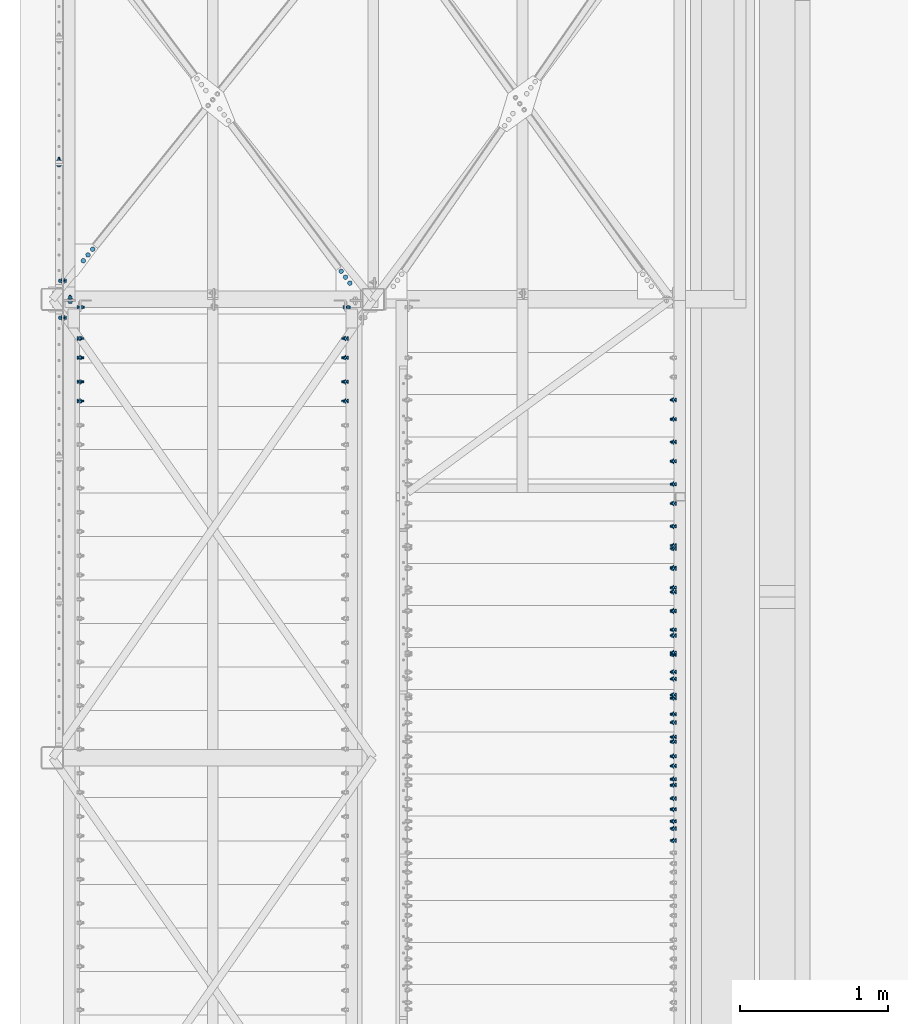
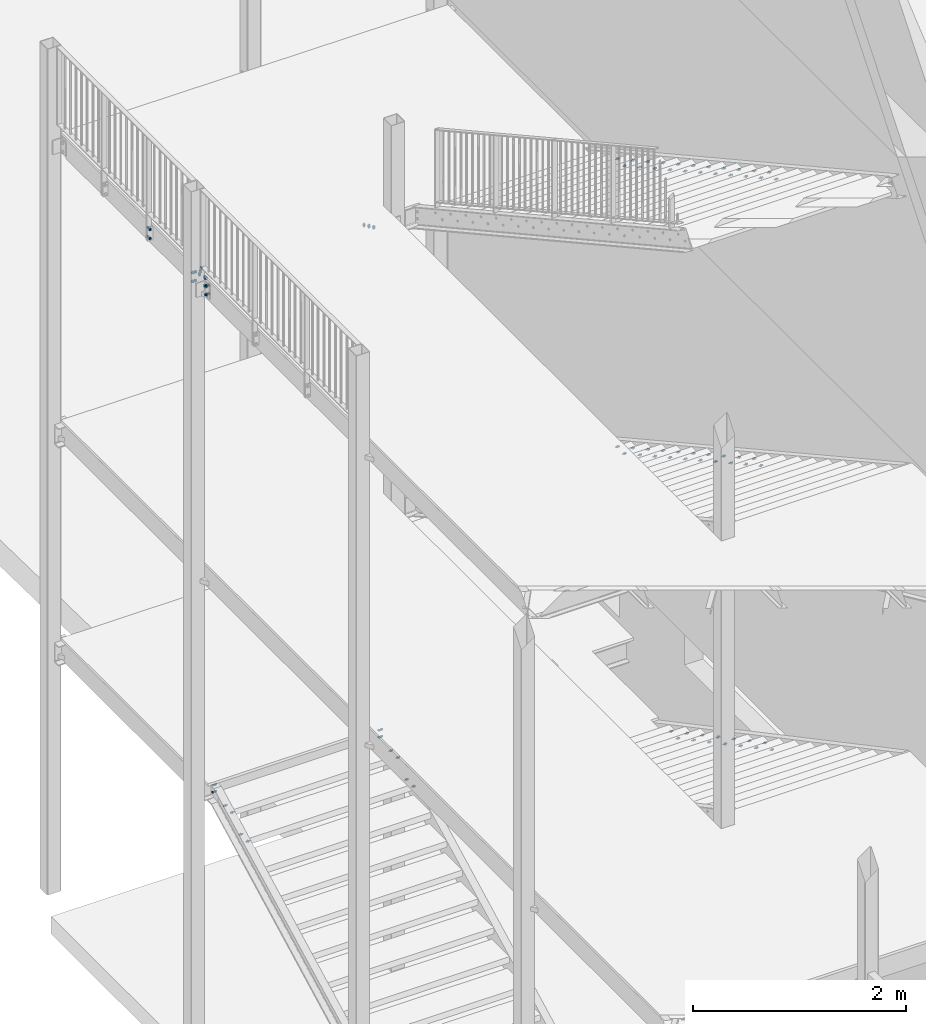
# One storey, part 71 of 78: 40 mechanical fasteners, 11 elements without a shape of their own.
"""IFC2X3 building model written with IfcOpenShell, lengths in millimetres."""

from ifc_helpers import new_model, si_unit, frame, origin_with_axes, origin_2d_with_axis, place, context, subcontext, project, spatial, polyline, circle, outline, extrude, source, transform, mapped, material, type_object, element, aggregate, save


model = new_model("IFC2X3")

# Units and contexts
model_context = context("Model", 3, precision=1e-05, world=origin_with_axes())
body_context = subcontext(model_context, "Body", "Model", "MODEL_VIEW")
ifc_project = project(units=[si_unit("LENGTHUNIT", "METRE", prefix="MILLI"), si_unit("AREAUNIT", "SQUARE_METRE"), si_unit("VOLUMEUNIT", "CUBIC_METRE"), si_unit("MASSUNIT", "GRAM", prefix="KILO"), si_unit("TIMEUNIT", "SECOND"), si_unit("PLANEANGLEUNIT", "RADIAN"), si_unit("SOLIDANGLEUNIT", "STERADIAN"), si_unit("THERMODYNAMICTEMPERATUREUNIT", "DEGREE_CELSIUS"), si_unit("LUMINOUSINTENSITYUNIT", "LUMEN")], contexts=[model_context])

# Site, building, storey
site_placement = place(None, origin_with_axes())
site = spatial("IfcSite", under=ifc_project, at=site_placement, Name="Site", CompositionType="ELEMENT")
building_placement = place(site_placement, origin_with_axes())
building = spatial("IfcBuilding", under=site, at=building_placement, Name="Undefined", CompositionType="ELEMENT")
storey_placement = place(building_placement, origin_with_axes())
storey = spatial("IfcBuildingStorey", under=building, at=storey_placement, Name="Undefined", CompositionType="ELEMENT", Elevation=0.0)

# Assembly, mechanical fastener
assembly_1_placement = place(storey_placement, origin_with_axes())
assembly_1 = element("IfcElementAssembly", 1, at=assembly_1_placement, inside=storey, AssemblyPlace="NOTDEFINED", PredefinedType="RIGID_FRAME")
ifc_material_1 = material(Name="8.8")
mechanical_fastener_type = type_object("IfcMechanicalFastenerType", Name="Bolt assembly")
shared_shape_1 = source(origin_with_axes(), body_context, "Body", "SweptSolid", [
    extrude(circle(Radius=9.0, at=origin_2d_with_axis()), frame((0.0, -7.89999999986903, 0.0), z_axis=(0.0, 1.0, 0.0), x_axis=(1.0, 0.0, 0.0)), (0.0, 0.0, 1.0), 8.0),
    extrude(circle(Radius=9.0, at=origin_2d_with_axis()), frame((0.0, -0.0999999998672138, 0.0), z_axis=(0.0, 1.0, 0.0), x_axis=(1.0, 0.0, 0.0)), (0.0, 0.0, 1.0), 9.1),
    extrude(outline(polyline([(13.85640646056, 0.0), (6.92820323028, 12.0000000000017), (-6.92820323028, 12.0000000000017), (-13.85640646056, 0.0), (-6.92820323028, -12.0000000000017), (6.92820323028, -12.0000000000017), (13.85640646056, 0.0)])), frame((0.0, -17.999999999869, 0.0), z_axis=(0.0, 1.0, 0.0), x_axis=(1.0, 0.0, 0.0)), (0.0, 0.0, 1.0), 10.0),
    extrude(circle(Radius=8.0, at=origin_2d_with_axis()), frame((0.0, -7.99999999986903, 0.0), z_axis=(0.0, 1.0, 0.0), x_axis=(1.0, 0.0, 0.0)), (0.0, 0.0, 1.0), 40.0),
    extrude(outline(polyline([(13.85640646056, 0.0), (6.92820323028, 12.0000000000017), (-6.92820323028, 12.0000000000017), (-13.85640646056, 0.0), (-6.92820323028, -12.0000000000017), (6.92820323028, -12.0000000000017), (13.85640646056, 0.0)])), frame((0.0, 9.0, 0.0), z_axis=(0.0, 1.0, 0.0), x_axis=(1.0, 0.0, 0.0)), (0.0, 0.0, 1.0), 14.8),
])
mechanical_fastener_1_placement = place(assembly_1_placement, frame((-33401.429999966, 10105.0499999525, 150800.039999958), z_axis=(0.0, -1.0, 0.0), x_axis=(0.0, 0.0, -1.0)))
mechanical_fastener_1 = element("IfcMechanicalFastener", 2, at=mechanical_fastener_1_placement, type_object=mechanical_fastener_type, material=ifc_material_1, Name="Bolt assembly", NominalDiameter=16.0, NominalLength=40.0, context=body_context, shape_type="MappedRepresentation", body=[
    mapped(shared_shape_1, transform((0.0, 0.0, 50.0))),
    mapped(shared_shape_1, transform((80.0, 0.0, 50.0))),
])

assembly_2_placement = place(storey_placement, origin_with_axes())
assembly_2 = element("IfcElementAssembly", 3, at=assembly_2_placement, inside=storey, Name="STAB", AssemblyPlace="NOTDEFINED", PredefinedType="RIGID_FRAME")
shared_shape_2 = source(origin_with_axes(), body_context, "Body", "SweptSolid", [
    extrude(circle(Radius=7.0, at=origin_2d_with_axis()), frame((0.0, -8.1, 0.0), z_axis=(0.0, 1.0, 0.0), x_axis=(1.0, 0.0, 0.0)), (0.0, 0.0, 1.0), 8.1),
    extrude(circle(Radius=7.0, at=origin_2d_with_axis()), frame((0.0, -12.9, 0.0), z_axis=(0.0, 1.0, 0.0), x_axis=(1.0, 0.0, 0.0)), (0.0, 0.0, 1.0), 5.0),
    extrude(outline(polyline([(10.96965511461, 0.0), (5.484827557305, 9.50000000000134), (-5.484827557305, 9.50000000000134), (-10.96965511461, 0.0), (-5.484827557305, -9.50000000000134), (5.484827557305, -9.50000000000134), (10.96965511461, 0.0)])), frame((0.0, -24.2000000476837, 0.0), z_axis=(0.0, 1.0, 0.0), x_axis=(1.0, 0.0, 0.0)), (0.0, 0.0, 1.0), 8.0),
    extrude(circle(Radius=6.0, at=origin_2d_with_axis()), frame((0.0, -16.2000000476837, 0.0), z_axis=(0.0, 1.0, 0.0), x_axis=(1.0, 0.0, 0.0)), (0.0, 0.0, 1.0), 35.0),
    extrude(circle(Radius=15.5, at=origin_2d_with_axis()), frame((0.0, -16.2000000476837, 0.0), z_axis=(0.0, 1.0, 0.0), x_axis=(1.0, 0.0, 0.0)), (0.0, 0.0, 1.0), 3.2),
    extrude(circle(Radius=15.5, at=origin_2d_with_axis()), frame((0.0, 0.0, 0.0), z_axis=(0.0, 1.0, 0.0), x_axis=(1.0, 0.0, 0.0)), (0.0, 0.0, 1.0), 3.2),
    extrude(outline(polyline([(10.39230484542, 0.0), (5.19615242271, 9.00000000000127), (-5.19615242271, 9.00000000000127), (-10.39230484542, 0.0), (-5.19615242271, -9.00000000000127), (5.19615242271, -9.00000000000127), (10.39230484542, 0.0)])), frame((0.0, 3.20000004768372, 0.0), z_axis=(0.0, 1.0, 0.0), x_axis=(1.0, 0.0, 0.0)), (0.0, 0.0, 1.0), 10.8),
])
mechanical_fastener_2_placement = place(assembly_2_placement, frame((-33373.7218397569, 10217.9940441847, 156450.04), z_axis=(-0.80071118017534, -0.599050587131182, 0.0), x_axis=(-0.599050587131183, 0.800711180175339, 0.0)))
mechanical_fastener_2 = element("IfcMechanicalFastener", 4, at=mechanical_fastener_2_placement, type_object=mechanical_fastener_type, material=ifc_material_1, Name="Bolt assembly", NominalDiameter=12.0, NominalLength=35.0, context=body_context, shape_type="MappedRepresentation", body=[
    mapped(shared_shape_2, transform((0.0, 0.0, 0.0))),
    mapped(shared_shape_2, transform((49.9999999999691, 0.0, 7.27595761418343e-12))),
    mapped(shared_shape_2, transform((100.0, 0.0, 0.0))),
])
aggregate(assembly_2, [mechanical_fastener_2])

assembly_3_placement = place(storey_placement, origin_with_axes())
assembly_3 = element("IfcElementAssembly", 5, at=assembly_3_placement, inside=storey, Name="STAB", AssemblyPlace="NOTDEFINED", PredefinedType="RIGID_FRAME")
mechanical_fastener_3_placement = place(assembly_3_placement, frame((-35176.2821913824, 10369.4742318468, 156450.04), z_axis=(-0.779458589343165, 0.626453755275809, 0.0), x_axis=(0.626453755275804, 0.779458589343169, 0.0)))
mechanical_fastener_3 = element("IfcMechanicalFastener", 6, at=mechanical_fastener_3_placement, type_object=mechanical_fastener_type, material=ifc_material_1, Name="Bolt assembly", NominalDiameter=12.0, NominalLength=35.0, context=body_context, shape_type="MappedRepresentation", body=[
    mapped(shared_shape_2, transform((0.0, 0.0, 0.0))),
    mapped(shared_shape_2, transform((49.9999999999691, 0.0, 7.27595761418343e-12))),
    mapped(shared_shape_2, transform((100.0, 0.0, 0.0))),
])
aggregate(assembly_3, [mechanical_fastener_3])

assembly_4_placement = place(storey_placement, origin_with_axes())
assembly_4 = element("IfcElementAssembly", 7, at=assembly_4_placement, inside=storey, Name="MAIN_COURANTE", AssemblyPlace="NOTDEFINED", PredefinedType="RIGID_FRAME")
ifc_material_2 = material(Name="INOX-A4")
shared_shape_3 = source(origin_with_axes(), body_context, "Body", "SweptSolid", [
    extrude(circle(Radius=7.0, at=origin_2d_with_axis()), frame((0.0, -7.4, 0.0), z_axis=(0.0, 1.0, 0.0), x_axis=(1.0, 0.0, 0.0)), (0.0, 0.0, 1.0), 15.0),
    extrude(circle(Radius=7.0, at=origin_2d_with_axis()), frame((0.0, 7.4, 0.0), z_axis=(0.0, 1.0, 0.0), x_axis=(1.0, 0.0, 0.0)), (0.0, 0.0, 1.0), 20.1),
    extrude(outline(polyline([(10.96965511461, 0.0), (5.484827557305, 9.50000000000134), (-5.484827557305, 9.50000000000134), (-10.96965511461, 0.0), (-5.484827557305, -9.50000000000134), (5.484827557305, -9.50000000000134), (10.96965511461, 0.0)])), frame((0.0, -18.7000000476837, 0.0), z_axis=(0.0, 1.0, 0.0), x_axis=(1.0, 0.0, 0.0)), (0.0, 0.0, 1.0), 8.0),
    extrude(circle(Radius=6.0, at=origin_2d_with_axis()), frame((0.0, -10.7000000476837, 0.0), z_axis=(0.0, 1.0, 0.0), x_axis=(1.0, 0.0, 0.0)), (0.0, 0.0, 1.0), 60.0),
    extrude(circle(Radius=15.5, at=origin_2d_with_axis()), frame((0.0, -10.7000000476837, 0.0), z_axis=(0.0, 1.0, 0.0), x_axis=(1.0, 0.0, 0.0)), (0.0, 0.0, 1.0), 3.2),
    extrude(circle(Radius=15.5, at=origin_2d_with_axis()), frame((0.0, 27.5, 0.0), z_axis=(0.0, 1.0, 0.0), x_axis=(1.0, 0.0, 0.0)), (0.0, 0.0, 1.0), 3.2),
    extrude(outline(polyline([(10.39230484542, 0.0), (5.19615242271, 9.00000000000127), (-5.19615242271, 9.00000000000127), (-10.39230484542, 0.0), (-5.19615242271, -9.00000000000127), (5.19615242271, -9.00000000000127), (10.39230484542, 0.0)])), frame((0.0, 30.7000000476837, 0.0), z_axis=(0.0, 1.0, 0.0), x_axis=(1.0, 0.0, 0.0)), (0.0, 0.0, 1.0), 10.8),
])
mechanical_fastener_4_placement = place(assembly_4_placement, frame((-35341.43, 11020.5, 156585.04), z_axis=(0.0, 0.0, 1.0), x_axis=(1.0, 0.0, 0.0)))
mechanical_fastener_4 = element("IfcMechanicalFastener", 8, at=mechanical_fastener_4_placement, type_object=mechanical_fastener_type, material=ifc_material_2, Name="Bolt assembly", NominalDiameter=12.0, NominalLength=60.0, context=body_context, shape_type="MappedRepresentation", body=[
    mapped(shared_shape_3, transform((0.0, 0.0, -50.0))),
    mapped(shared_shape_3, transform((0.0, 0.0, 50.0))),
])
aggregate(assembly_4, [mechanical_fastener_4])

assembly_5_placement = place(storey_placement, origin_with_axes())
assembly_5 = element("IfcElementAssembly", 9, at=assembly_5_placement, inside=storey, AssemblyPlace="NOTDEFINED", PredefinedType="RIGID_FRAME")
shared_shape_4 = source(origin_with_axes(), body_context, "Body", "SweptSolid", [
    extrude(circle(Radius=9.0, at=origin_2d_with_axis()), frame((0.0, -0.0999999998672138, 0.0), z_axis=(0.0, 1.0, 0.0), x_axis=(1.0, 0.0, 0.0)), (0.0, 0.0, 1.0), 10.1),
    extrude(circle(Radius=9.0, at=origin_2d_with_axis()), frame((0.0, -8.9, 0.0), z_axis=(0.0, 1.0, 0.0), x_axis=(1.0, 0.0, 0.0)), (0.0, 0.0, 1.0), 9.0),
    extrude(outline(polyline([(13.85640646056, 0.0), (6.92820323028, 12.0000000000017), (-6.92820323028, 12.0000000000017), (-13.85640646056, 0.0), (-6.92820323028, -12.0000000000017), (6.92820323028, -12.0000000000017), (13.85640646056, 0.0)])), frame((0.0, -22.4000000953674, 0.0), z_axis=(0.0, 1.0, 0.0), x_axis=(1.0, 0.0, 0.0)), (0.0, 0.0, 1.0), 10.0),
    extrude(circle(Radius=8.0, at=origin_2d_with_axis()), frame((0.0, -12.4000000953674, 0.0), z_axis=(0.0, 1.0, 0.0), x_axis=(1.0, 0.0, 0.0)), (0.0, 0.0, 1.0), 45.0),
    extrude(circle(Radius=18.5, at=origin_2d_with_axis()), frame((0.0, -12.4000000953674, 0.0), z_axis=(0.0, 1.0, 0.0), x_axis=(1.0, 0.0, 0.0)), (0.0, 0.0, 1.0), 3.4),
    extrude(circle(Radius=18.5, at=origin_2d_with_axis()), frame((0.0, 10.0, 0.0), z_axis=(0.0, 1.0, 0.0), x_axis=(1.0, 0.0, 0.0)), (0.0, 0.0, 1.0), 3.4),
    extrude(outline(polyline([(13.85640646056, 0.0), (6.92820323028, 12.0000000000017), (-6.92820323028, 12.0000000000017), (-13.85640646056, 0.0), (-6.92820323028, -12.0000000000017), (6.92820323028, -12.0000000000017), (13.85640646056, 0.0)])), frame((0.0, 13.4000000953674, 0.0), z_axis=(0.0, 1.0, 0.0), x_axis=(1.0, 0.0, 0.0)), (0.0, 0.0, 1.0), 14.8),
])
mechanical_fastener_5_placement = place(assembly_5_placement, frame((-35311.43, 9983.0, 156610.04), z_axis=(0.0, 1.0, 0.0), x_axis=(0.0, 0.0, -1.0)))
mechanical_fastener_5 = element("IfcMechanicalFastener", 10, at=mechanical_fastener_5_placement, type_object=mechanical_fastener_type, material=ifc_material_1, Name="Bolt assembly", NominalDiameter=16.0, NominalLength=45.0, context=body_context, shape_type="MappedRepresentation", body=[
    mapped(shared_shape_4, transform((0.0, 0.0, 0.0))),
    mapped(shared_shape_4, transform((100.0, 0.0, 0.0))),
])
aggregate(assembly_5, [mechanical_fastener_5])

assembly_6_placement = place(storey_placement, origin_with_axes())
assembly_6 = element("IfcElementAssembly", 11, at=assembly_6_placement, inside=storey, AssemblyPlace="NOTDEFINED", PredefinedType="RIGID_FRAME")
mechanical_fastener_6_placement = place(assembly_6_placement, frame((-35311.43, 10233.0, 156610.04), z_axis=(0.0, 1.0, 0.0), x_axis=(0.0, 0.0, -1.0)))
mechanical_fastener_6 = element("IfcMechanicalFastener", 12, at=mechanical_fastener_6_placement, type_object=mechanical_fastener_type, material=ifc_material_1, Name="Bolt assembly", NominalDiameter=16.0, NominalLength=45.0, context=body_context, shape_type="MappedRepresentation", body=[
    mapped(shared_shape_4, transform((0.0, 0.0, 0.0))),
    mapped(shared_shape_4, transform((100.0, 0.0, 0.0))),
])
aggregate(assembly_6, [mechanical_fastener_6])

assembly_7_placement = place(storey_placement, origin_with_axes())
assembly_7 = element("IfcElementAssembly", 13, at=assembly_7_placement, inside=storey, AssemblyPlace="NOTDEFINED", PredefinedType="RIGID_FRAME")
shared_shape_5 = source(origin_with_axes(), body_context, "Body", "SweptSolid", [
    extrude(circle(Radius=9.0, at=origin_2d_with_axis()), frame((0.0, -12.8500000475, 0.0), z_axis=(0.0, 1.0, 0.0), x_axis=(1.0, 0.0, 0.0)), (0.0, 0.0, 1.0), 10.0),
    extrude(circle(Radius=9.0, at=origin_2d_with_axis()), frame((0.0, -3.0500000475, 0.0), z_axis=(0.0, 1.0, 0.0), x_axis=(1.0, 0.0, 0.0)), (0.0, 0.0, 1.0), 6.0),
    extrude(outline(polyline([(13.85640646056, 0.0), (6.92820323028, 12.0000000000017), (-6.92820323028, 12.0000000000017), (-13.85640646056, 0.0), (-6.92820323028, -12.0000000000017), (6.92820323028, -12.0000000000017), (13.85640646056, 0.0)])), frame((0.0, -26.3500001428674, 0.0), z_axis=(0.0, 1.0, 0.0), x_axis=(1.0, 0.0, 0.0)), (0.0, 0.0, 1.0), 10.0),
    extrude(circle(Radius=8.0, at=origin_2d_with_axis()), frame((0.0, -16.3500001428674, 0.0), z_axis=(0.0, 1.0, 0.0), x_axis=(1.0, 0.0, 0.0)), (0.0, 0.0, 1.0), 45.0),
    extrude(circle(Radius=18.5, at=origin_2d_with_axis()), frame((0.0, -16.3500001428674, 0.0), z_axis=(0.0, 1.0, 0.0), x_axis=(1.0, 0.0, 0.0)), (0.0, 0.0, 1.0), 3.4),
    extrude(circle(Radius=18.5, at=origin_2d_with_axis()), frame((0.0, 2.9500000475, 0.0), z_axis=(0.0, 1.0, 0.0), x_axis=(1.0, 0.0, 0.0)), (0.0, 0.0, 1.0), 3.4),
    extrude(outline(polyline([(13.85640646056, 0.0), (6.92820323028, 12.0000000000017), (-6.92820323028, 12.0000000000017), (-13.85640646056, 0.0), (-6.92820323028, -12.0000000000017), (6.92820323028, -12.0000000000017), (13.85640646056, 0.0)])), frame((0.0, 6.35000014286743, 0.0), z_axis=(0.0, 1.0, 0.0), x_axis=(1.0, 0.0, 0.0)), (0.0, 0.0, 1.0), 14.8),
])
mechanical_fastener_7_placement = place(assembly_7_placement, frame((-35266.43, 10108.0, 156610.04), z_axis=(1.0, 0.0, 0.0), x_axis=(0.0, 0.0, -1.0)))
mechanical_fastener_7 = element("IfcMechanicalFastener", 14, at=mechanical_fastener_7_placement, type_object=mechanical_fastener_type, material=ifc_material_1, Name="Bolt assembly", NominalDiameter=16.0, NominalLength=45.0, context=body_context, shape_type="MappedRepresentation", body=[
    mapped(shared_shape_5, transform((0.0, 0.0, 0.0))),
    mapped(shared_shape_5, transform((100.0, 0.0, 0.0))),
])
aggregate(assembly_7, [mechanical_fastener_7])

assembly_8_placement = place(storey_placement, origin_with_axes())
assembly_8 = element("IfcElementAssembly", 15, at=assembly_8_placement, inside=storey, AssemblyPlace="NOTDEFINED", PredefinedType="RIGID_FRAME")
shared_shape_6 = source(origin_with_axes(), body_context, "Body", "SweptSolid", [
    extrude(circle(Radius=9.0, at=origin_2d_with_axis()), frame((0.0, -0.0999999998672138, 0.0), z_axis=(0.0, 1.0, 0.0), x_axis=(1.0, 0.0, 0.0)), (0.0, 0.0, 1.0), 8.1),
    extrude(circle(Radius=9.0, at=origin_2d_with_axis()), frame((0.0, -8.9, 0.0), z_axis=(0.0, 1.0, 0.0), x_axis=(1.0, 0.0, 0.0)), (0.0, 0.0, 1.0), 9.0),
    extrude(outline(polyline([(13.85640646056, 0.0), (6.92820323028, 12.0000000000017), (-6.92820323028, 12.0000000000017), (-13.85640646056, 0.0), (-6.92820323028, -12.0000000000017), (6.92820323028, -12.0000000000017), (13.85640646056, 0.0)])), frame((0.0, -19.0, 0.0), z_axis=(0.0, 1.0, 0.0), x_axis=(1.0, 0.0, 0.0)), (0.0, 0.0, 1.0), 10.0),
    extrude(circle(Radius=8.0, at=origin_2d_with_axis()), frame((0.0, -9.00000002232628, 0.0), z_axis=(0.0, 1.0, 0.0), x_axis=(1.0, 0.0, 0.0)), (0.0, 0.0, 1.0), 40.0),
    extrude(outline(polyline([(13.85640646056, 0.0), (6.92820323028, 12.0000000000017), (-6.92820323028, 12.0000000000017), (-13.85640646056, 0.0), (-6.92820323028, -12.0000000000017), (6.92820323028, -12.0000000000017), (13.85640646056, 0.0)])), frame((0.0, 8.0, 0.0), z_axis=(0.0, 1.0, 0.0), x_axis=(1.0, 0.0, 0.0)), (0.0, 0.0, 1.0), 14.8),
])
mechanical_fastener_8_placement = place(assembly_8_placement, frame((-35201.4300000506, 10105.0499999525, 150800.039999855), z_axis=(0.0, -1.0, 0.0), x_axis=(0.0, 0.0, -1.0)))
mechanical_fastener_8 = element("IfcMechanicalFastener", 16, at=mechanical_fastener_8_placement, type_object=mechanical_fastener_type, material=ifc_material_1, Name="Bolt assembly", NominalDiameter=16.0, NominalLength=40.0, context=body_context, shape_type="MappedRepresentation", body=[
    mapped(shared_shape_6, transform((0.0, 0.0, 50.0))),
    mapped(shared_shape_6, transform((80.0, 0.0, 50.0))),
])

# Assembly, mechanical fasteners
assembly_9_placement = place(storey_placement, origin_with_axes())
assembly_9 = element("IfcElementAssembly", 17, at=assembly_9_placement, inside=storey, AssemblyPlace="NOTDEFINED", PredefinedType="RIGID_FRAME")
ifc_material_3 = material(Name="6.8")
shared_shape_7 = source(origin_with_axes(), body_context, "Body", "SweptSolid", [
    extrude(circle(Radius=6.0, at=origin_2d_with_axis()), frame((0.0, -9.00000002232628, 0.0), z_axis=(0.0, 1.0, 0.0), x_axis=(1.0, 0.0, 0.0)), (0.0, 0.0, 1.0), 9.1),
    extrude(outline(polyline([(10.96965511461, 0.0), (5.484827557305, 9.50000000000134), (-5.484827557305, 9.50000000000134), (-10.96965511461, 0.0), (-5.484827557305, -9.50000000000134), (5.484827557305, -9.50000000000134), (10.96965511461, 0.0)])), frame((0.0, -17.0000000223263, 0.0), z_axis=(0.0, 1.0, 0.0), x_axis=(1.0, 0.0, 0.0)), (0.0, 0.0, 1.0), 8.0),
    extrude(circle(Radius=6.0, at=origin_2d_with_axis()), frame((0.0, -9.00000002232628, 0.0), z_axis=(0.0, 1.0, 0.0), x_axis=(1.0, 0.0, 0.0)), (0.0, 0.0, 1.0), 35.0),
    extrude(circle(Radius=15.5, at=origin_2d_with_axis()), frame((0.0, 0.0, 0.0), z_axis=(0.0, 1.0, 0.0), x_axis=(1.0, 0.0, 0.0)), (0.0, 0.0, 1.0), 3.2),
    extrude(outline(polyline([(10.39230484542, 0.0), (5.19615242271, 9.00000000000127), (-5.19615242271, 9.00000000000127), (-10.39230484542, 0.0), (-5.19615242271, -9.00000000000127), (5.19615242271, -9.00000000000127), (10.39230484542, 0.0)])), frame((0.0, 3.20000004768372, 0.0), z_axis=(0.0, 1.0, 0.0), x_axis=(1.0, 0.0, 0.0)), (0.0, 0.0, 1.0), 10.8),
])
mechanical_fastener_9_placement = place(assembly_9_placement, frame((-31182.8599999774, 6862.9999999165, 155070.040000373), z_axis=(0.0, 0.0, -1.0), x_axis=(0.0, -1.0, 0.0)))
mechanical_fastener_9 = element("IfcMechanicalFastener", 18, at=mechanical_fastener_9_placement, type_object=mechanical_fastener_type, material=ifc_material_3, Name="Bolt assembly", NominalDiameter=12.0, NominalLength=35.0, context=body_context, shape_type="MappedRepresentation", body=[
    mapped(shared_shape_7, transform((0.0, 0.0, 0.0))),
    mapped(shared_shape_7, transform((130.0, 0.0, 0.0))),
])
mechanical_fastener_10_placement = place(assembly_9_placement, frame((-31182.8599999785, 7147.99999991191, 154912.540000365), z_axis=(0.0, 0.0, -1.0), x_axis=(0.0, -1.0, 0.0)))
mechanical_fastener_10 = element("IfcMechanicalFastener", 19, at=mechanical_fastener_10_placement, type_object=mechanical_fastener_type, material=ifc_material_3, Name="Bolt assembly", NominalDiameter=12.0, NominalLength=35.0, context=body_context, shape_type="MappedRepresentation", body=[
    mapped(shared_shape_7, transform((0.0, 0.0, 0.0))),
    mapped(shared_shape_7, transform((130.0, 0.0, 0.0))),
])
mechanical_fastener_11_placement = place(assembly_9_placement, frame((-31182.8599999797, 7432.99999990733, 154755.040000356), z_axis=(0.0, 0.0, -1.0), x_axis=(0.0, -1.0, 0.0)))
mechanical_fastener_11 = element("IfcMechanicalFastener", 20, at=mechanical_fastener_11_placement, type_object=mechanical_fastener_type, material=ifc_material_3, Name="Bolt assembly", NominalDiameter=12.0, NominalLength=35.0, context=body_context, shape_type="MappedRepresentation", body=[
    mapped(shared_shape_7, transform((0.0, 0.0, 0.0))),
    mapped(shared_shape_7, transform((130.0, 0.0, 0.0))),
])
mechanical_fastener_12_placement = place(assembly_9_placement, frame((-31182.8599999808, 7717.99999990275, 154597.540000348), z_axis=(0.0, 0.0, -1.0), x_axis=(0.0, -1.0, 0.0)))
mechanical_fastener_12 = element("IfcMechanicalFastener", 21, at=mechanical_fastener_12_placement, type_object=mechanical_fastener_type, material=ifc_material_3, Name="Bolt assembly", NominalDiameter=12.0, NominalLength=35.0, context=body_context, shape_type="MappedRepresentation", body=[
    mapped(shared_shape_7, transform((0.0, 0.0, 0.0))),
    mapped(shared_shape_7, transform((130.0, 0.0, 0.0))),
])
mechanical_fastener_13_placement = place(assembly_9_placement, frame((-31182.859999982, 8002.99999989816, 154440.04000034), z_axis=(0.0, 0.0, -1.0), x_axis=(0.0, -1.0, 0.0)))
mechanical_fastener_13 = element("IfcMechanicalFastener", 22, at=mechanical_fastener_13_placement, type_object=mechanical_fastener_type, material=ifc_material_3, Name="Bolt assembly", NominalDiameter=12.0, NominalLength=35.0, context=body_context, shape_type="MappedRepresentation", body=[
    mapped(shared_shape_7, transform((0.0, 0.0, 0.0))),
    mapped(shared_shape_7, transform((130.0, 0.0, 0.0))),
])
mechanical_fastener_14_placement = place(assembly_9_placement, frame((-31182.8599999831, 8287.99999989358, 154282.540000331), z_axis=(0.0, 0.0, -1.0), x_axis=(0.0, -1.0, 0.0)))
mechanical_fastener_14 = element("IfcMechanicalFastener", 23, at=mechanical_fastener_14_placement, type_object=mechanical_fastener_type, material=ifc_material_3, Name="Bolt assembly", NominalDiameter=12.0, NominalLength=35.0, context=body_context, shape_type="MappedRepresentation", body=[
    mapped(shared_shape_7, transform((0.0, 0.0, 0.0))),
    mapped(shared_shape_7, transform((130.0, 0.0, 0.0))),
])
mechanical_fastener_15_placement = place(assembly_9_placement, frame((-31182.8599999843, 8572.99999988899, 154125.040000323), z_axis=(0.0, 0.0, -1.0), x_axis=(0.0, -1.0, 0.0)))
mechanical_fastener_15 = element("IfcMechanicalFastener", 24, at=mechanical_fastener_15_placement, type_object=mechanical_fastener_type, material=ifc_material_3, Name="Bolt assembly", NominalDiameter=12.0, NominalLength=35.0, context=body_context, shape_type="MappedRepresentation", body=[
    mapped(shared_shape_7, transform((0.0, 0.0, 0.0))),
    mapped(shared_shape_7, transform((130.0, 0.0, 0.0))),
])
mechanical_fastener_16_placement = place(assembly_9_placement, frame((-31182.8599999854, 8857.99999988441, 153967.540000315), z_axis=(0.0, 0.0, -1.0), x_axis=(0.0, -1.0, 0.0)))
mechanical_fastener_16 = element("IfcMechanicalFastener", 25, at=mechanical_fastener_16_placement, type_object=mechanical_fastener_type, material=ifc_material_3, Name="Bolt assembly", NominalDiameter=12.0, NominalLength=35.0, context=body_context, shape_type="MappedRepresentation", body=[
    mapped(shared_shape_7, transform((0.0, 0.0, 0.0))),
    mapped(shared_shape_7, transform((130.0, 0.0, 0.0))),
])
mechanical_fastener_17_placement = place(assembly_9_placement, frame((-31182.8599999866, 9142.99999987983, 153810.040000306), z_axis=(0.0, 0.0, -1.0), x_axis=(0.0, -1.0, 0.0)))
mechanical_fastener_17 = element("IfcMechanicalFastener", 26, at=mechanical_fastener_17_placement, type_object=mechanical_fastener_type, material=ifc_material_3, Name="Bolt assembly", NominalDiameter=12.0, NominalLength=35.0, context=body_context, shape_type="MappedRepresentation", body=[
    mapped(shared_shape_7, transform((0.0, 0.0, 0.0))),
    mapped(shared_shape_7, transform((130.0, 0.0, 0.0))),
])
mechanical_fastener_18_placement = place(assembly_9_placement, frame((-31182.8599999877, 9427.99999987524, 153652.540000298), z_axis=(0.0, 0.0, -1.0), x_axis=(0.0, -1.0, 0.0)))
mechanical_fastener_18 = element("IfcMechanicalFastener", 27, at=mechanical_fastener_18_placement, type_object=mechanical_fastener_type, material=ifc_material_3, Name="Bolt assembly", NominalDiameter=12.0, NominalLength=35.0, context=body_context, shape_type="MappedRepresentation", body=[
    mapped(shared_shape_7, transform((0.0, 0.0, 0.0))),
    mapped(shared_shape_7, transform((130.0, 0.0, 0.0))),
])
aggregate(assembly_9, [mechanical_fastener_9, mechanical_fastener_10, mechanical_fastener_11, mechanical_fastener_12, mechanical_fastener_13, mechanical_fastener_14, mechanical_fastener_15, mechanical_fastener_16, mechanical_fastener_17, mechanical_fastener_18])

assembly_10_placement = place(storey_placement, origin_with_axes())
assembly_10 = element("IfcElementAssembly", 28, at=assembly_10_placement, inside=storey, AssemblyPlace="NOTDEFINED", PredefinedType="RIGID_FRAME")
mechanical_fastener_19_placement = place(assembly_10_placement, frame((-31182.8599999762, 6577.99999992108, 158527.540000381), z_axis=(0.0, 0.0, -1.0), x_axis=(0.0, -1.0, 0.0)))
mechanical_fastener_19 = element("IfcMechanicalFastener", 29, at=mechanical_fastener_19_placement, type_object=mechanical_fastener_type, material=ifc_material_3, Name="Bolt assembly", NominalDiameter=12.0, NominalLength=35.0, context=body_context, shape_type="MappedRepresentation", body=[
    mapped(shared_shape_7, transform((0.0, 0.0, 0.0))),
    mapped(shared_shape_7, transform((130.0, 0.0, 0.0))),
])
mechanical_fastener_20_placement = place(assembly_10_placement, frame((-31182.8599999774, 6862.9999999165, 158370.040000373), z_axis=(0.0, 0.0, -1.0), x_axis=(0.0, -1.0, 0.0)))
mechanical_fastener_20 = element("IfcMechanicalFastener", 30, at=mechanical_fastener_20_placement, type_object=mechanical_fastener_type, material=ifc_material_3, Name="Bolt assembly", NominalDiameter=12.0, NominalLength=35.0, context=body_context, shape_type="MappedRepresentation", body=[
    mapped(shared_shape_7, transform((0.0, 0.0, 0.0))),
    mapped(shared_shape_7, transform((130.0, 0.0, 0.0))),
])
mechanical_fastener_21_placement = place(assembly_10_placement, frame((-31182.8599999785, 7147.99999991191, 158212.540000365), z_axis=(0.0, 0.0, -1.0), x_axis=(0.0, -1.0, 0.0)))
mechanical_fastener_21 = element("IfcMechanicalFastener", 31, at=mechanical_fastener_21_placement, type_object=mechanical_fastener_type, material=ifc_material_3, Name="Bolt assembly", NominalDiameter=12.0, NominalLength=35.0, context=body_context, shape_type="MappedRepresentation", body=[
    mapped(shared_shape_7, transform((0.0, 0.0, 0.0))),
    mapped(shared_shape_7, transform((130.0, 0.0, 0.0))),
])
mechanical_fastener_22_placement = place(assembly_10_placement, frame((-31182.8599999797, 7432.99999990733, 158055.040000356), z_axis=(0.0, 0.0, -1.0), x_axis=(0.0, -1.0, 0.0)))
mechanical_fastener_22 = element("IfcMechanicalFastener", 32, at=mechanical_fastener_22_placement, type_object=mechanical_fastener_type, material=ifc_material_3, Name="Bolt assembly", NominalDiameter=12.0, NominalLength=35.0, context=body_context, shape_type="MappedRepresentation", body=[
    mapped(shared_shape_7, transform((0.0, 0.0, 0.0))),
    mapped(shared_shape_7, transform((130.0, 0.0, 0.0))),
])
mechanical_fastener_23_placement = place(assembly_10_placement, frame((-31182.8599999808, 7717.99999990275, 157897.540000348), z_axis=(0.0, 0.0, -1.0), x_axis=(0.0, -1.0, 0.0)))
mechanical_fastener_23 = element("IfcMechanicalFastener", 33, at=mechanical_fastener_23_placement, type_object=mechanical_fastener_type, material=ifc_material_3, Name="Bolt assembly", NominalDiameter=12.0, NominalLength=35.0, context=body_context, shape_type="MappedRepresentation", body=[
    mapped(shared_shape_7, transform((0.0, 0.0, 0.0))),
    mapped(shared_shape_7, transform((130.0, 0.0, 0.0))),
])
mechanical_fastener_24_placement = place(assembly_10_placement, frame((-31182.859999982, 8002.99999989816, 157740.04000034), z_axis=(0.0, 0.0, -1.0), x_axis=(0.0, -1.0, 0.0)))
mechanical_fastener_24 = element("IfcMechanicalFastener", 34, at=mechanical_fastener_24_placement, type_object=mechanical_fastener_type, material=ifc_material_3, Name="Bolt assembly", NominalDiameter=12.0, NominalLength=35.0, context=body_context, shape_type="MappedRepresentation", body=[
    mapped(shared_shape_7, transform((0.0, 0.0, 0.0))),
    mapped(shared_shape_7, transform((130.0, 0.0, 0.0))),
])
mechanical_fastener_25_placement = place(assembly_10_placement, frame((-31182.8599999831, 8287.99999989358, 157582.540000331), z_axis=(0.0, 0.0, -1.0), x_axis=(0.0, -1.0, 0.0)))
mechanical_fastener_25 = element("IfcMechanicalFastener", 35, at=mechanical_fastener_25_placement, type_object=mechanical_fastener_type, material=ifc_material_3, Name="Bolt assembly", NominalDiameter=12.0, NominalLength=35.0, context=body_context, shape_type="MappedRepresentation", body=[
    mapped(shared_shape_7, transform((0.0, 0.0, 0.0))),
    mapped(shared_shape_7, transform((130.0, 0.0, 0.0))),
])
mechanical_fastener_26_placement = place(assembly_10_placement, frame((-31182.8599999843, 8572.99999988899, 157425.040000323), z_axis=(0.0, 0.0, -1.0), x_axis=(0.0, -1.0, 0.0)))
mechanical_fastener_26 = element("IfcMechanicalFastener", 36, at=mechanical_fastener_26_placement, type_object=mechanical_fastener_type, material=ifc_material_3, Name="Bolt assembly", NominalDiameter=12.0, NominalLength=35.0, context=body_context, shape_type="MappedRepresentation", body=[
    mapped(shared_shape_7, transform((0.0, 0.0, 0.0))),
    mapped(shared_shape_7, transform((130.0, 0.0, 0.0))),
])
mechanical_fastener_27_placement = place(assembly_10_placement, frame((-31182.8599999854, 8857.99999988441, 157267.540000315), z_axis=(0.0, 0.0, -1.0), x_axis=(0.0, -1.0, 0.0)))
mechanical_fastener_27 = element("IfcMechanicalFastener", 37, at=mechanical_fastener_27_placement, type_object=mechanical_fastener_type, material=ifc_material_3, Name="Bolt assembly", NominalDiameter=12.0, NominalLength=35.0, context=body_context, shape_type="MappedRepresentation", body=[
    mapped(shared_shape_7, transform((0.0, 0.0, 0.0))),
    mapped(shared_shape_7, transform((130.0, 0.0, 0.0))),
])
mechanical_fastener_28_placement = place(assembly_10_placement, frame((-31182.8599999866, 9142.99999987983, 157110.040000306), z_axis=(0.0, 0.0, -1.0), x_axis=(0.0, -1.0, 0.0)))
mechanical_fastener_28 = element("IfcMechanicalFastener", 38, at=mechanical_fastener_28_placement, type_object=mechanical_fastener_type, material=ifc_material_3, Name="Bolt assembly", NominalDiameter=12.0, NominalLength=35.0, context=body_context, shape_type="MappedRepresentation", body=[
    mapped(shared_shape_7, transform((0.0, 0.0, 0.0))),
    mapped(shared_shape_7, transform((130.0, 0.0, 0.0))),
])
mechanical_fastener_29_placement = place(assembly_10_placement, frame((-31182.8599999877, 9427.99999987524, 156952.540000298), z_axis=(0.0, 0.0, -1.0), x_axis=(0.0, -1.0, 0.0)))
mechanical_fastener_29 = element("IfcMechanicalFastener", 39, at=mechanical_fastener_29_placement, type_object=mechanical_fastener_type, material=ifc_material_3, Name="Bolt assembly", NominalDiameter=12.0, NominalLength=35.0, context=body_context, shape_type="MappedRepresentation", body=[
    mapped(shared_shape_7, transform((0.0, 0.0, 0.0))),
    mapped(shared_shape_7, transform((130.0, 0.0, 0.0))),
])
aggregate(assembly_10, [mechanical_fastener_19, mechanical_fastener_20, mechanical_fastener_21, mechanical_fastener_22, mechanical_fastener_23, mechanical_fastener_24, mechanical_fastener_25, mechanical_fastener_26, mechanical_fastener_27, mechanical_fastener_28, mechanical_fastener_29])

# Mechanical fastener
mechanical_fastener_30_placement = place(assembly_8_placement, frame((-35201.4300000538, 9714.00000000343, 150692.039999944), z_axis=(0.0, 0.0, -1.0), x_axis=(0.0, 1.0, 0.0)))
mechanical_fastener_30 = element("IfcMechanicalFastener", 40, at=mechanical_fastener_30_placement, type_object=mechanical_fastener_type, material=ifc_material_3, Name="Bolt assembly", NominalDiameter=12.0, NominalLength=35.0, context=body_context, shape_type="MappedRepresentation", body=[
    mapped(shared_shape_7, transform((0.0, 0.0, 0.0))),
    mapped(shared_shape_7, transform((130.0, 0.0, 0.0))),
])

mechanical_fastener_31_placement = place(assembly_1_placement, frame((-33401.4300000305, 9714.00000000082, 150692.040000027), z_axis=(0.0, 0.0, 1.0), x_axis=(0.0, 1.0, 0.0)))
mechanical_fastener_31 = element("IfcMechanicalFastener", 41, at=mechanical_fastener_31_placement, type_object=mechanical_fastener_type, material=ifc_material_3, Name="Bolt assembly", NominalDiameter=12.0, NominalLength=35.0, context=body_context, shape_type="MappedRepresentation", body=[
    mapped(shared_shape_7, transform((0.0, 0.0, 0.0))),
    mapped(shared_shape_7, transform((130.0, 0.0, 0.0))),
])

mechanical_fastener_32_placement = place(assembly_8_placement, frame((-35201.4300000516, 9420.00000000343, 150539.039999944), z_axis=(0.0, 0.0, -1.0), x_axis=(0.0, 1.0, 0.0)))
mechanical_fastener_32 = element("IfcMechanicalFastener", 42, at=mechanical_fastener_32_placement, type_object=mechanical_fastener_type, material=ifc_material_3, Name="Bolt assembly", NominalDiameter=12.0, NominalLength=35.0, context=body_context, shape_type="MappedRepresentation", body=[
    mapped(shared_shape_7, transform((0.0, 0.0, 0.0))),
    mapped(shared_shape_7, transform((130.0, 0.0, 0.0))),
])

aggregate(assembly_8, [mechanical_fastener_8, mechanical_fastener_30, mechanical_fastener_32])

mechanical_fastener_33_placement = place(assembly_1_placement, frame((-33401.4300000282, 9420.00000000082, 150539.040000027), z_axis=(0.0, 0.0, 1.0), x_axis=(0.0, 1.0, 0.0)))
mechanical_fastener_33 = element("IfcMechanicalFastener", 43, at=mechanical_fastener_33_placement, type_object=mechanical_fastener_type, material=ifc_material_3, Name="Bolt assembly", NominalDiameter=12.0, NominalLength=35.0, context=body_context, shape_type="MappedRepresentation", body=[
    mapped(shared_shape_7, transform((0.0, 0.0, 0.0))),
    mapped(shared_shape_7, transform((130.0, 0.0, 0.0))),
])

aggregate(assembly_1, [mechanical_fastener_1, mechanical_fastener_31, mechanical_fastener_33])

# Assembly, mechanical fasteners
assembly_11_placement = place(storey_placement, origin_with_axes())
assembly_11 = element("IfcElementAssembly", 44, at=assembly_11_placement, inside=storey, AssemblyPlace="NOTDEFINED", PredefinedType="RIGID_FRAME")
mechanical_fastener_34_placement = place(assembly_11_placement, frame((-31182.8599999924, 6658.99999975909, 151936.54010735), z_axis=(0.0, 0.0, -1.0), x_axis=(0.0, -1.0, 0.0)))
mechanical_fastener_34 = element("IfcMechanicalFastener", 45, at=mechanical_fastener_34_placement, type_object=mechanical_fastener_type, material=ifc_material_3, Name="Bolt assembly", NominalDiameter=12.0, NominalLength=35.0, context=body_context, shape_type="MappedRepresentation", body=[
    mapped(shared_shape_7, transform((0.0, 0.0, 0.0))),
    mapped(shared_shape_7, transform((130.0, 0.0, 0.0))),
])
mechanical_fastener_35_placement = place(assembly_11_placement, frame((-31182.859999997, 6952.9999997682, 151780.040107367), z_axis=(0.0, 0.0, -1.0), x_axis=(0.0, -1.0, 0.0)))
mechanical_fastener_35 = element("IfcMechanicalFastener", 46, at=mechanical_fastener_35_placement, type_object=mechanical_fastener_type, material=ifc_material_3, Name="Bolt assembly", NominalDiameter=12.0, NominalLength=35.0, context=body_context, shape_type="MappedRepresentation", body=[
    mapped(shared_shape_7, transform((0.0, 0.0, 0.0))),
    mapped(shared_shape_7, transform((130.0, 0.0, 0.0))),
])
mechanical_fastener_36_placement = place(assembly_11_placement, frame((-31182.8600000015, 7246.99999977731, 151623.540107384), z_axis=(0.0, 0.0, -1.0), x_axis=(0.0, -1.0, 0.0)))
mechanical_fastener_36 = element("IfcMechanicalFastener", 47, at=mechanical_fastener_36_placement, type_object=mechanical_fastener_type, material=ifc_material_3, Name="Bolt assembly", NominalDiameter=12.0, NominalLength=35.0, context=body_context, shape_type="MappedRepresentation", body=[
    mapped(shared_shape_7, transform((0.0, 0.0, 0.0))),
    mapped(shared_shape_7, transform((130.0, 0.0, 0.0))),
])
mechanical_fastener_37_placement = place(assembly_11_placement, frame((-31182.8600000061, 7540.99999978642, 151467.040107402), z_axis=(0.0, 0.0, -1.0), x_axis=(0.0, -1.0, 0.0)))
mechanical_fastener_37 = element("IfcMechanicalFastener", 48, at=mechanical_fastener_37_placement, type_object=mechanical_fastener_type, material=ifc_material_3, Name="Bolt assembly", NominalDiameter=12.0, NominalLength=35.0, context=body_context, shape_type="MappedRepresentation", body=[
    mapped(shared_shape_7, transform((0.0, 0.0, 0.0))),
    mapped(shared_shape_7, transform((130.0, 0.0, 0.0))),
])
mechanical_fastener_38_placement = place(assembly_11_placement, frame((-31182.8600000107, 7834.99999979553, 151310.540107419), z_axis=(0.0, 0.0, -1.0), x_axis=(0.0, -1.0, 0.0)))
mechanical_fastener_38 = element("IfcMechanicalFastener", 49, at=mechanical_fastener_38_placement, type_object=mechanical_fastener_type, material=ifc_material_3, Name="Bolt assembly", NominalDiameter=12.0, NominalLength=35.0, context=body_context, shape_type="MappedRepresentation", body=[
    mapped(shared_shape_7, transform((0.0, 0.0, 0.0))),
    mapped(shared_shape_7, transform((130.0, 0.0, 0.0))),
])
mechanical_fastener_39_placement = place(assembly_11_placement, frame((-31182.8600000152, 8128.99999980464, 151154.040107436), z_axis=(0.0, 0.0, -1.0), x_axis=(0.0, -1.0, 0.0)))
mechanical_fastener_39 = element("IfcMechanicalFastener", 50, at=mechanical_fastener_39_placement, type_object=mechanical_fastener_type, material=ifc_material_3, Name="Bolt assembly", NominalDiameter=12.0, NominalLength=35.0, context=body_context, shape_type="MappedRepresentation", body=[
    mapped(shared_shape_7, transform((0.0, 0.0, 0.0))),
    mapped(shared_shape_7, transform((130.0, 0.0, 0.0))),
])
mechanical_fastener_40_placement = place(assembly_11_placement, frame((-31182.8600000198, 8422.99999981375, 150997.540107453), z_axis=(0.0, 0.0, -1.0), x_axis=(0.0, -1.0, 0.0)))
mechanical_fastener_40 = element("IfcMechanicalFastener", 51, at=mechanical_fastener_40_placement, type_object=mechanical_fastener_type, material=ifc_material_3, Name="Bolt assembly", NominalDiameter=12.0, NominalLength=35.0, context=body_context, shape_type="MappedRepresentation", body=[
    mapped(shared_shape_7, transform((0.0, 0.0, 0.0))),
    mapped(shared_shape_7, transform((130.0, 0.0, 0.0))),
])
aggregate(assembly_11, [mechanical_fastener_34, mechanical_fastener_35, mechanical_fastener_36, mechanical_fastener_37, mechanical_fastener_38, mechanical_fastener_39, mechanical_fastener_40])

save(model, "model.ifc")
